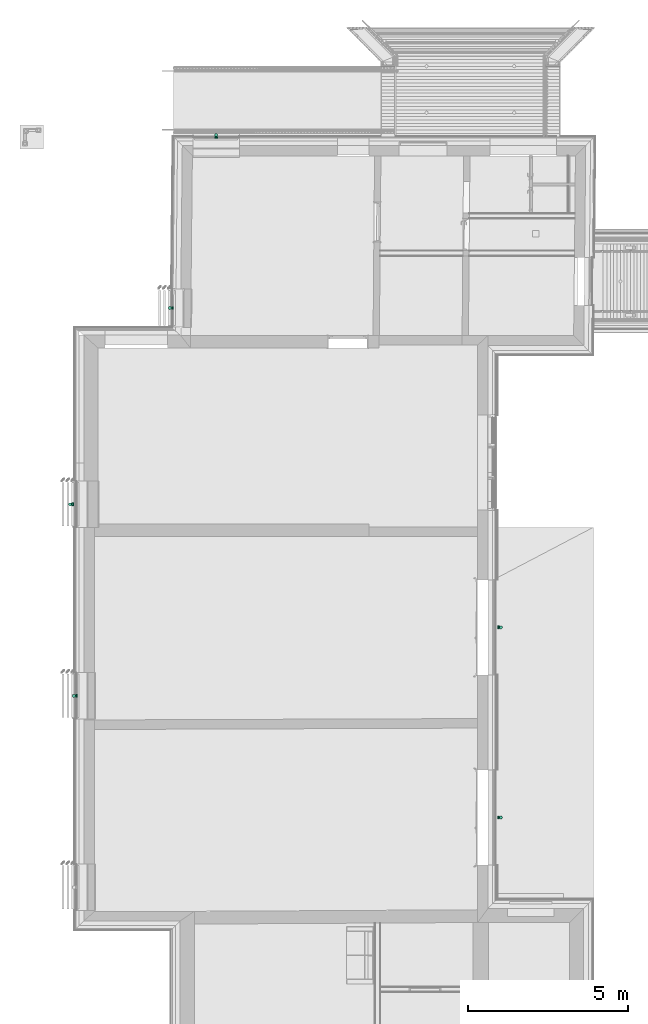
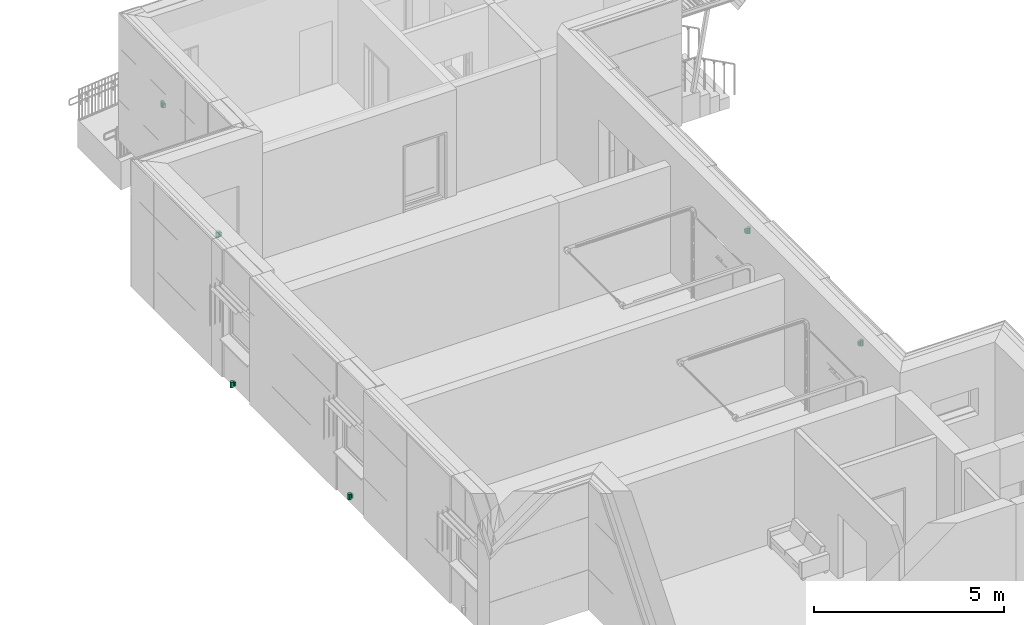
# One storey, part 183 of 418: 12 flow terminals.
"""IFC2X3 building model written with IfcOpenShell, lengths in millimetres."""

from ifc_helpers import new_model, entity, si_unit, converted_unit, derived_unit, money_unit, point, direction, frame, frame_2d, origin_with_axes, place, context, subcontext, project, spatial, polyline, circle_curve, parameter, trimmed, segment, composite_curve, outline, extrude, material, type_object, element, save


model = new_model("IFC2X3")

# Units and contexts
model_context = context("Model", 3, precision=0.01, world=origin_with_axes(), true_north=direction((0.0, 1.0)))
body_context = subcontext(model_context, "Body", "Model", "MODEL_VIEW")
ifc_project = project(units=[si_unit("LENGTHUNIT", "METRE", prefix="MILLI"), si_unit("AREAUNIT", "SQUARE_METRE"), si_unit("VOLUMEUNIT", "CUBIC_METRE"), converted_unit("PLANEANGLEUNIT", "DEGREE", entity("IfcPlaneAngleMeasure", 0.0174532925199), si_unit("PLANEANGLEUNIT", "RADIAN"), dimensions=[0, 0, 0, 0, 0, 0, 0]), si_unit("SOLIDANGLEUNIT", "STERADIAN"), money_unit("EUR"), converted_unit("TIMEUNIT", "Year", entity("IfcTimeMeasure", 31556926.0), si_unit("TIMEUNIT", "SECOND"), dimensions=[0, 0, 1, 0, 0, 0, 0]), si_unit("MASSUNIT", "GRAM", prefix="KILO"), si_unit("THERMODYNAMICTEMPERATUREUNIT", "DEGREE_CELSIUS"), si_unit("LUMINOUSINTENSITYUNIT", "LUMEN"), si_unit("ENERGYUNIT", "JOULE", prefix="MEGA"), derived_unit("THERMALCONDUCTANCEUNIT", [(si_unit("POWERUNIT", "WATT"), 1), (si_unit("LENGTHUNIT", "METRE"), -1), (si_unit("THERMODYNAMICTEMPERATUREUNIT", "KELVIN"), -1)]), derived_unit("SPECIFICHEATCAPACITYUNIT", [(si_unit("ENERGYUNIT", "JOULE"), 1), (si_unit("MASSUNIT", "GRAM", prefix="KILO"), -1), (si_unit("THERMODYNAMICTEMPERATUREUNIT", "KELVIN"), -1)]), derived_unit("MASSDENSITYUNIT", [(si_unit("MASSUNIT", "GRAM", prefix="KILO"), 1), (si_unit("VOLUMEUNIT", "CUBIC_METRE"), -1)])], contexts=[model_context])

# Site, building, storey
site_placement = place(None, origin_with_axes())
site = spatial("IfcSite", under=ifc_project, at=site_placement, Name="Paldiski mnt 245/1, Tallinn, Harjumaa", CompositionType="COMPLEX")
building_placement = place(site_placement, origin_with_axes())
building = spatial("IfcBuilding", under=site, at=building_placement, Name="RKAS Hoone üldnimetus (kasutust iseloomustav) -> IFC Project Manager -> SOLIBRI", CompositionType="ELEMENT")
storey_placement = place(building_placement, origin_with_axes())
storey = spatial("IfcBuildingStorey", under=building, at=storey_placement, Name="Esimene korrus", CompositionType="ELEMENT", Elevation=0.0)

# Flow terminals
ifc_material = material(Name="RAL7016")
light_fixture_type_1 = type_object("IfcLightFixtureType", Name="RAL7016 180", PredefinedType="NOTDEFINED")
flow_terminal_1_placement = place(storey_placement, frame((-58584.3073259, 36372.8285711, 749.978995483), z_axis=(0.0, 0.0, 1.0), x_axis=(1.0, 0.0, 0.0)))
element("IfcFlowTerminal", 1, at=flow_terminal_1_placement, inside=storey, type_object=light_fixture_type_1, material=ifc_material, Name="Välisvalgusti", ObjectType="Light Fixture", context=body_context, shape_type="SweptSolid", body=[
    extrude(outline(composite_curve([segment(trimmed(circle_curve(frame_2d((0.0, 50.0), x_axis=(0.0, -1.0)), 50.0), [point((0.0, 0.0)), parameter(0.0)], [point((0.0, 100.0)), parameter(180.0)], True, "CARTESIAN"), True, "CONTINUOUS"), segment(trimmed(circle_curve(frame_2d((0.0, 50.0), x_axis=(0.0, 1.0)), 50.0), [point((0.0, 100.0)), parameter(0.0)], [point((0.0, 0.0)), parameter(180.0)], True, "CARTESIAN"), True, "CONTINUOUS")], self_intersect=False)), frame((0.0, 0.0, -180.0), z_axis=(0.0, 0.0, 1.0), x_axis=(1.0, 0.0, 0.0)), (0.0, 0.0, 1.0), 180.0),
])
for number, where, z_axis, x_axis in (
    (2, (-63106.8271634, 24850.331166, 350.0), (0.0, 0.0, 1.0), (1.0, 0.0, 0.0)),
    (3, (-62993.0, 18850.828957, 350.0), (0.0, 0.0, 1.0), (1.0, 0.0, 0.0)),
    (4, (-59986.4747321, 31003.0205094, 350.0), (0.0, 0.0, 1.0), (1.0, 0.0, 0.0)),
):
    element("IfcFlowTerminal", number, at=place(storey_placement, frame(where, z_axis=z_axis, x_axis=x_axis)), inside=storey, type_object=light_fixture_type_1, material=ifc_material, Name="Välisvalgusti", ObjectType="Light Fixture", context=body_context, shape_type="SweptSolid", body=[
        extrude(outline(composite_curve([segment(trimmed(circle_curve(frame_2d((-50.0, 0.0), x_axis=(1.0, 0.0)), 50.0), [point((0.0, 0.0)), parameter(0.0)], [point((-100.0, 0.0)), parameter(180.0)], True, "CARTESIAN"), True, "CONTINUOUS"), segment(trimmed(circle_curve(frame_2d((-50.0, 0.0), x_axis=(-1.0, 0.0)), 50.0), [point((-100.0, 0.0)), parameter(0.0)], [point((0.0, 0.0)), parameter(180.0)], True, "CARTESIAN"), True, "CONTINUOUS")], self_intersect=False)), frame((0.0, 0.0, -180.0), z_axis=(0.0, 0.0, 1.0), x_axis=(1.0, 0.0, 0.0)), (0.0, 0.0, 1.0), 180.0),
    ])
for number, where, z_axis, x_axis in (
    (5, (-49717.0, 15039.8267451, 2920.0), (0.0, 0.0, 1.0), (1.0, 0.0, 0.0)),
    (6, (-49717.0, 20996.8286754, 2920.0), (0.0, 0.0, 1.0), (1.0, 0.0, 0.0)),
):
    element("IfcFlowTerminal", number, at=place(storey_placement, frame(where, z_axis=z_axis, x_axis=x_axis)), inside=storey, type_object=light_fixture_type_1, material=ifc_material, Name="Välisvalgusti", ObjectType="Light Fixture", context=body_context, shape_type="SweptSolid", body=[
        extrude(outline(composite_curve([segment(trimmed(circle_curve(frame_2d((50.0, 0.0), x_axis=(-1.0, 0.0)), 50.0), [point((0.0, 0.0)), parameter(0.0)], [point((100.0, 0.0)), parameter(180.0)], True, "CARTESIAN"), True, "CONTINUOUS"), segment(trimmed(circle_curve(frame_2d((50.0, 0.0), x_axis=(1.0, 0.0)), 50.0), [point((100.0, 0.0)), parameter(0.0)], [point((0.0, 0.0)), parameter(180.0)], True, "CARTESIAN"), True, "CONTINUOUS")], self_intersect=False)), frame((0.0, 0.0, -180.0), z_axis=(0.0, 0.0, 1.0), x_axis=(1.0, 0.0, 0.0)), (0.0, 0.0, 1.0), 180.0),
    ])
light_fixture_type_2 = type_object("IfcLightFixtureType", Name="RAL7016 120", PredefinedType="NOTDEFINED")
flow_terminal_2_placement = place(storey_placement, frame((-58629.3073259, 36369.8285711, 715.173461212), z_axis=(0.0, 0.0, 1.0), x_axis=(1.0, 0.0, 0.0)))
element("IfcFlowTerminal", 7, at=flow_terminal_2_placement, inside=storey, type_object=light_fixture_type_2, material=ifc_material, Name="Välisvalgusti", ObjectType="Light Fixture", context=body_context, shape_type="SweptSolid", body=[
    extrude(outline(polyline([(0.0, 0.0), (0.0, -50.0), (90.0, -50.0), (90.0, 0.0), (0.0, 0.0)])), frame((0.0, 0.0, -120.0), z_axis=(0.0, 0.0, 1.0), x_axis=(1.0, 0.0, 0.0)), (0.0, 0.0, 1.0), 120.0),
])
for number, where, z_axis, x_axis in (
    (8, (-63103.8271634, 24805.331166, 320.0), (0.0, 0.0, 1.0), (1.0, 0.0, 0.0)),
    (9, (-62990.0, 18805.828957, 320.0), (0.0, 0.0, 1.0), (1.0, 0.0, 0.0)),
    (10, (-59983.4747321, 30958.0205094, 320.0), (0.0, 0.0, 1.0), (1.0, 0.0, 0.0)),
):
    element("IfcFlowTerminal", number, at=place(storey_placement, frame(where, z_axis=z_axis, x_axis=x_axis)), inside=storey, type_object=light_fixture_type_2, material=ifc_material, Name="Välisvalgusti", ObjectType="Light Fixture", context=body_context, shape_type="SweptSolid", body=[
        extrude(outline(polyline([(0.0, 0.0), (50.0, 0.0), (50.0, 90.0), (0.0, 90.0), (0.0, 0.0)])), frame((0.0, 0.0, -120.0), z_axis=(0.0, 0.0, 1.0), x_axis=(1.0, 0.0, 0.0)), (0.0, 0.0, 1.0), 120.0),
    ])
for number, where, z_axis, x_axis in (
    (11, (-49720.0, 20951.8286754, 2890.0), (0.0, 0.0, 1.0), (1.0, 0.0, 0.0)),
    (12, (-49720.0, 14994.8267451, 2890.0), (0.0, 0.0, 1.0), (1.0, 0.0, 0.0)),
):
    element("IfcFlowTerminal", number, at=place(storey_placement, frame(where, z_axis=z_axis, x_axis=x_axis)), inside=storey, type_object=light_fixture_type_2, material=ifc_material, Name="Välisvalgusti", ObjectType="Light Fixture", context=body_context, shape_type="SweptSolid", body=[
        extrude(outline(polyline([(0.0, 0.0), (0.0, 90.0), (-50.0, 90.0), (-50.0, 0.0), (0.0, 0.0)])), frame((0.0, 0.0, -120.0), z_axis=(0.0, 0.0, 1.0), x_axis=(1.0, 0.0, 0.0)), (0.0, 0.0, 1.0), 120.0),
    ])

save(model, "model.ifc")
